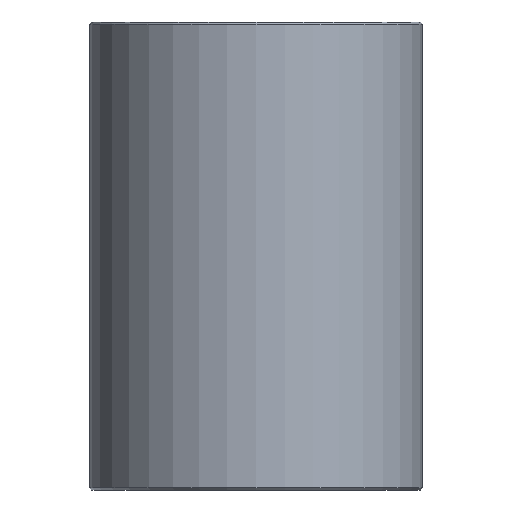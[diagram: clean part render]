
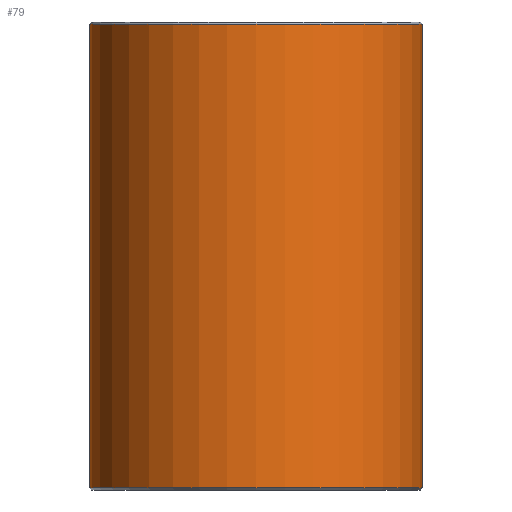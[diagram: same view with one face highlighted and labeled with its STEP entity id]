
A CAD part, front view. The second image highlights one B-rep face of the part: STEP entity #79.
In plain terms, the highlighted cylindrical face has radius 16 mm (diameter 32 mm), a full revolution.
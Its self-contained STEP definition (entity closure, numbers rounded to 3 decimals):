
#79=ADVANCED_FACE('',(#96,#97),#98,.T.);
#96=FACE_OUTER_BOUND('',#120,.T.);
#97=FACE_OUTER_BOUND('',#121,.T.);
#98=CYLINDRICAL_SURFACE('',#122,16.0);
#120=EDGE_LOOP('',(#152));
#121=EDGE_LOOP('',(#153));
#122=AXIS2_PLACEMENT_3D('',#154,#155,#156);
#152=ORIENTED_EDGE('',*,*,#178,.T.);
#153=ORIENTED_EDGE('',*,*,#177,.T.);
#154=CARTESIAN_POINT('',(0.0,0.0,45.0));
#155=DIRECTION('',(0.0,0.0,-1.0));
#156=DIRECTION('',(-1.0,0.0,0.0));
#177=EDGE_CURVE('',#190,#190,#191,.T.);
#178=EDGE_CURVE('',#192,#192,#193,.F.);
#190=VERTEX_POINT('',#206);
#191=CIRCLE('',#207,16.0);
#192=VERTEX_POINT('',#208);
#193=CIRCLE('',#209,16.0);
#206=CARTESIAN_POINT('',(16.0,0.0,0.2));
#207=AXIS2_PLACEMENT_3D('',#227,#228,#229);
#208=CARTESIAN_POINT('',(16.0,0.,44.8));
#209=AXIS2_PLACEMENT_3D('',#230,#231,#232);
#227=CARTESIAN_POINT('',(0.0,0.0,0.2));
#228=DIRECTION('',(0.0,0.0,1.0));
#229=DIRECTION('',(1.0,0.0,0.0));
#230=CARTESIAN_POINT('',(0.0,0.0,44.8));
#231=DIRECTION('',(0.0,0.0,1.0));
#232=DIRECTION('',(1.0,0.0,0.0));
